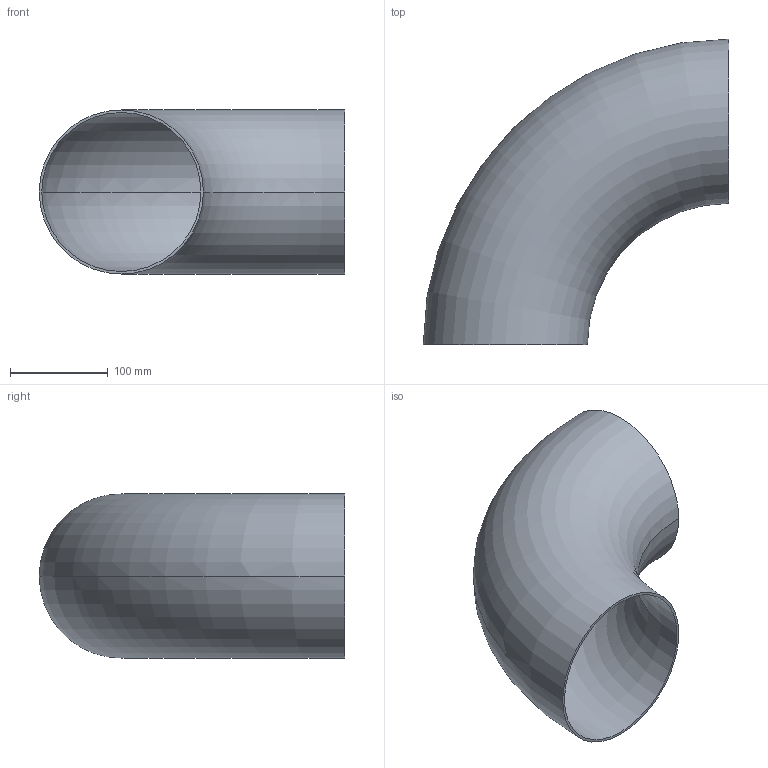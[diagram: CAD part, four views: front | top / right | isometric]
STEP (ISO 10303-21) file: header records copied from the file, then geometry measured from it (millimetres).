
FILE_DESCRIPTION (( 'STEP AP203' ), '1' );
FILE_NAME ('OT200-150-168_3x2_6_OSTP.step', '2020-12-16T02:52:32', ( '' ), ( '' ), 'SwSTEP 2.0', 'SolidWorks 2014', '' );
FILE_SCHEMA (( 'CONFIG_CONTROL_DESIGN' ));
Length unit declared in the file: millimetre
Products named in the file (1): OT200-150-168_3x2_6_OSTP
Bounding box: 313.15 x 313.15 x 168.3 mm (x, y, z)
Volume: 486856.6 mm3; surface area: 377212 mm2
Topology: 1 solids, 1 shells, 6 faces, 12 edges, 8 vertices
Faces by surface type: torus 4, plane 2
Entity records: 249 total; most frequent: DIRECTION 38, CARTESIAN_POINT 27, ORIENTED_EDGE 24, AXIS2_PLACEMENT_3D 19, CIRCLE 12, EDGE_CURVE 12, VERTEX_POINT 8, EDGE_LOOP 8
